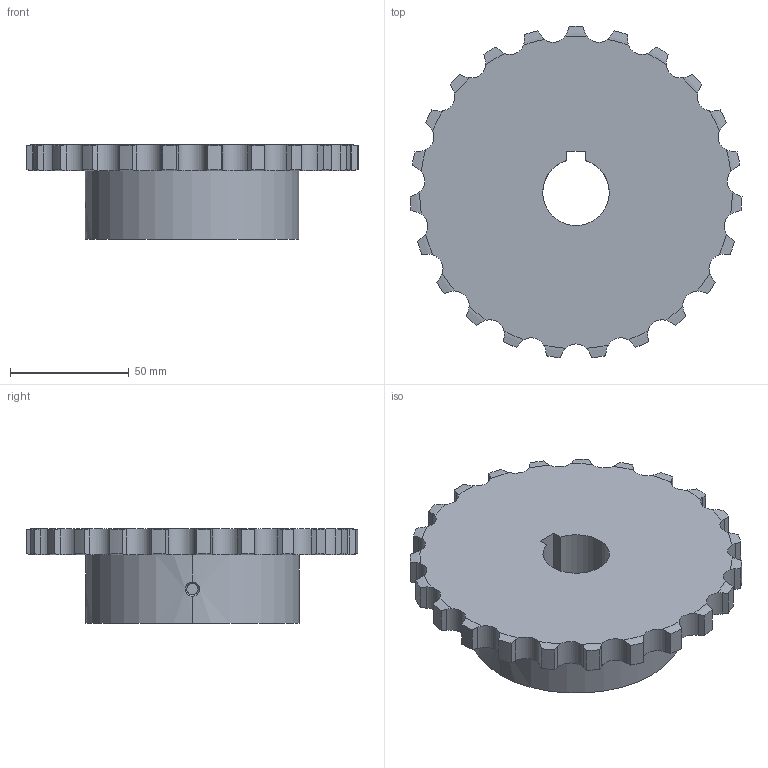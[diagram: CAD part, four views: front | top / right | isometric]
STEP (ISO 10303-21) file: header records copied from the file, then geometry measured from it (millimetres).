
FILE_DESCRIPTION((''),'2;1');
FILE_NAME('510-401-2823_PRT','2021-02-13T',('Brieden'),('Brieden'),'PRO/ENGINEER BY PARAMETRIC TECHNOLOGY CORPORATION, 2010160','PRO/ENGINEER BY PARAMETRIC TECHNOLOGY CORPORATION, 2010160','');
FILE_SCHEMA(('AUTOMOTIVE_DESIGN { 1 0 10303 214 1 1 1 1 }'));
Length unit declared in the file: millimetre
Products named in the file (1): 510-401-2823_PRT
Bounding box: 139.85 x 139.57 x 40 mm (x, y, z)
Volume: 313194.1 mm3; surface area: 45288.2 mm2
Topology: 1 solids, 1 shells, 159 faces, 459 edges, 304 vertices
Faces by surface type: cylinder 99, torus 46, plane 8, bspline 6
Entity records: 7746 total; most frequent: CARTESIAN_POINT 2377, ORIENTED_EDGE 918, DIRECTION 717, PRESENTATION_STYLE_ASSIGNMENT 460, STYLED_ITEM 460, CURVE_STYLE 459, EDGE_CURVE 459, VERTEX_POINT 304
